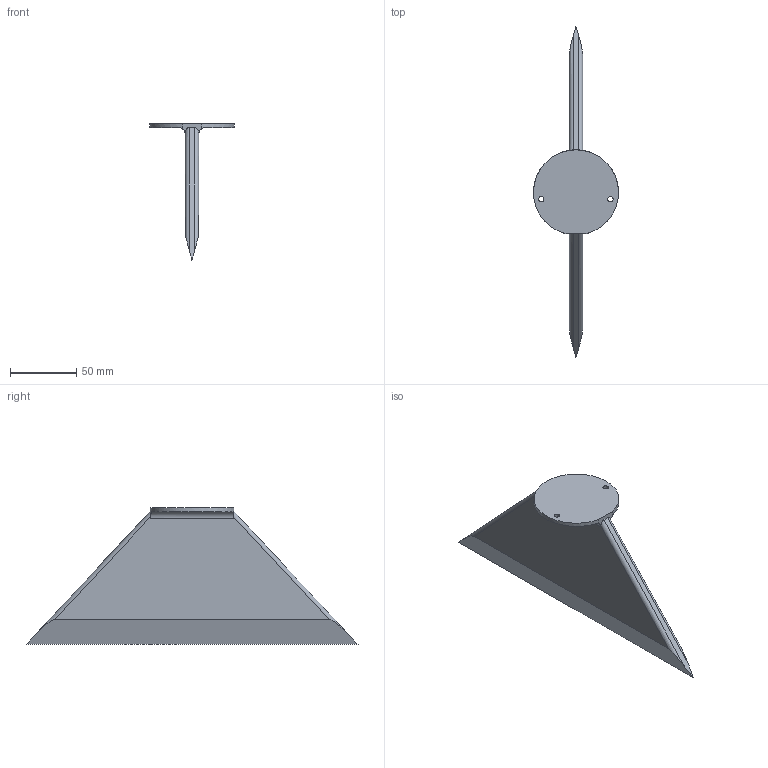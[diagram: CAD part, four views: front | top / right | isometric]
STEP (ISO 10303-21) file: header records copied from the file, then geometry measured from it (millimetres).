
FILE_DESCRIPTION(/* description */ ('STEP AP242 Edition 2','CAx-IF Rec.Pracs.---Representation and Presentation of Product Manufacturing Information (PMI)---4.0---2014-10-13','CAx-IF Rec.Pracs.---3D Tessellated Geometry---0.4---2014-09-14','2;1','CAx-IF Rec.Pracs.---User Defined Attributes---1.5---2016-08-15'),/* implementation_level */ '2;1');
FILE_NAME(/* name */ 'tool_side Copy 1 - Rake',/* time_stamp */ '2026-04-21T11:09:56Z',/* author */ (''),/* organization */ (''),/* preprocessor_version */ 'ST-DEVELOPER v20',/* originating_system */ 'ONSHAPE BY PTC INC, 1.213',/* authorisation */ ' ');
FILE_SCHEMA (('AP242_MANAGED_MODEL_BASED_3D_ENGINEERING_MIM_LF { 1 0 10303 442 3 1 4 }'));
Length unit declared in the file: metre
Products named in the file (1): Rake
Bounding box: 63.97 x 250 x 103 mm (x, y, z)
Volume: 143655.8 mm3; surface area: 39669.1 mm2
Topology: 1 solids, 1 shells, 21 faces, 56 edges, 37 vertices
Faces by surface type: plane 12, cylinder 9
Full cylindrical faces by diameter (mm): 4 x2
Entity records: 693 total; most frequent: CARTESIAN_POINT 137, DIRECTION 111, ORIENTED_EDGE 108, EDGE_CURVE 54, AXIS2_PLACEMENT_3D 41, VERTEX_POINT 37, LINE 29, VECTOR 29
